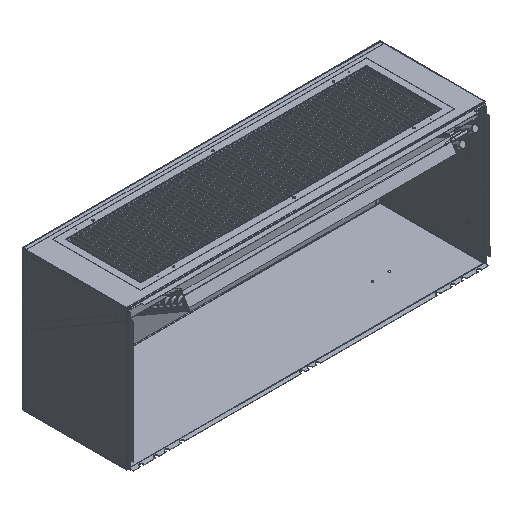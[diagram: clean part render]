
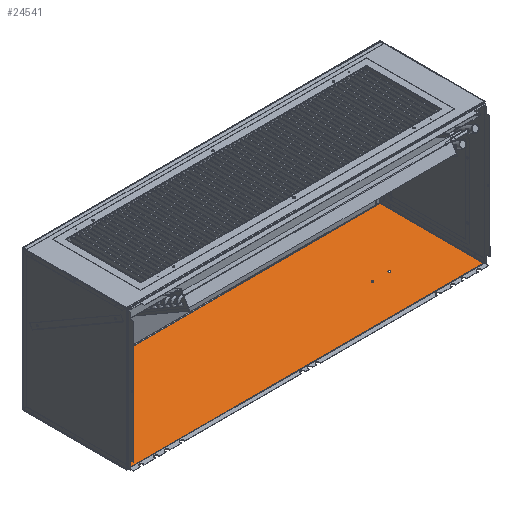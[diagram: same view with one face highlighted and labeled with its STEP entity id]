
A CAD part, isometric view. The second image highlights one B-rep face of the part: STEP entity #24541.
In plain terms, the highlighted planar face has unit normal (0, 0, 1) as drawn and (-1, 0, 0) by its records, which use the part's own axes.
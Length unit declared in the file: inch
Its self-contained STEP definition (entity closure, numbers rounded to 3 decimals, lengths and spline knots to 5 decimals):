
#596 = AXIS2_PLACEMENT_3D ( 'NONE', #9239, #9184, #9025 ) ;
#954 = AXIS2_PLACEMENT_3D ( 'NONE', #11344, #11340, #11305 ) ;
#987 = VERTEX_POINT ( 'NONE', #19968 ) ;
#3140 = VECTOR ( 'NONE', #38552, 39.37008 ) ;
#3170 = ORIENTED_EDGE ( 'NONE', *, *, #19306, .T. ) ;
#3215 = VECTOR ( 'NONE', #3658, 39.37008 ) ;
#3352 = DIRECTION ( 'NONE',  ( 0., -1., 0. ) ) ;
#3658 = DIRECTION ( 'NONE',  ( 0., 0., 1. ) ) ;
#3696 = CARTESIAN_POINT ( 'NONE',  ( 7.61768, 22.26875, 14.5519 ) ) ;
#3776 = CARTESIAN_POINT ( 'NONE',  ( 7.61768, 25.46787, 0.08552 ) ) ;
#3981 = LINE ( 'NONE', #3696, #3215 ) ;
#3996 = CARTESIAN_POINT ( 'NONE',  ( 7.61768, 62.39035, 8.66052 ) ) ;
#4382 = LINE ( 'NONE', #7684, #6003 ) ;
#4604 = CARTESIAN_POINT ( 'NONE',  ( 7.61768, 69.542, 13.88577 ) ) ;
#4786 = CARTESIAN_POINT ( 'NONE',  ( 7.61768, 69.609, 14.5519 ) ) ;
#4888 = DIRECTION ( 'NONE',  ( 0., 0., -1. ) ) ;
#5538 = VERTEX_POINT ( 'NONE', #22353 ) ;
#5603 = ORIENTED_EDGE ( 'NONE', *, *, #21492, .T. ) ;
#6003 = VECTOR ( 'NONE', #21954, 39.37008 ) ;
#6246 = VERTEX_POINT ( 'NONE', #3996 ) ;
#6406 = ORIENTED_EDGE ( 'NONE', *, *, #19603, .T. ) ;
#7447 = LINE ( 'NONE', #39863, #36169 ) ;
#7684 = CARTESIAN_POINT ( 'NONE',  ( 7.61768, -1.42424, 0.08487 ) ) ;
#8346 = DIRECTION ( 'NONE',  ( 0., 1., 0. ) ) ;
#8578 = CARTESIAN_POINT ( 'NONE',  ( 7.61768, 69.542, 13.83947 ) ) ;
#8947 = CARTESIAN_POINT ( 'NONE',  ( 7.61768, 25.46787, 13.83947 ) ) ;
#9025 = DIRECTION ( 'NONE',  ( 0., 0., -1. ) ) ;
#9184 = DIRECTION ( 'NONE',  ( 1., 0., 0. ) ) ;
#9239 = CARTESIAN_POINT ( 'NONE',  ( 7.61768, 62.39035, 8.53552 ) ) ;
#9339 = CARTESIAN_POINT ( 'NONE',  ( 7.61768, 60.14035, 8.66052 ) ) ;
#9762 = ORIENTED_EDGE ( 'NONE', *, *, #35757, .T. ) ;
#10731 = CARTESIAN_POINT ( 'NONE',  ( 7.61768, 22.20632, 13.83947 ) ) ;
#10817 = ORIENTED_EDGE ( 'NONE', *, *, #22374, .T. ) ;
#11305 = DIRECTION ( 'NONE',  ( 0., 0., -1. ) ) ;
#11340 = DIRECTION ( 'NONE',  ( 1., 0., 0. ) ) ;
#11344 = CARTESIAN_POINT ( 'NONE',  ( 7.61768, 60.14035, 8.53552 ) ) ;
#11970 = EDGE_CURVE ( 'NONE', #29200, #5538, #35855, .T. ) ;
#12269 = LINE ( 'NONE', #24610, #48470 ) ;
#13216 = VERTEX_POINT ( 'NONE', #4604 ) ;
#13893 = EDGE_LOOP ( 'NONE', ( #3170, #10817 ) ) ;
#14043 = CIRCLE ( 'NONE', #29247, 0.125 ) ;
#14126 = CARTESIAN_POINT ( 'NONE',  ( 7.61768, 69.609, 13.83947 ) ) ;
#14711 = CARTESIAN_POINT ( 'NONE',  ( 7.61768, 62.39035, 8.41052 ) ) ;
#14962 = VERTEX_POINT ( 'NONE', #14126 ) ;
#15836 = VERTEX_POINT ( 'NONE', #48080 ) ;
#16724 = ORIENTED_EDGE ( 'NONE', *, *, #22381, .T. ) ;
#17203 = ORIENTED_EDGE ( 'NONE', *, *, #22368, .T. ) ;
#17379 = CARTESIAN_POINT ( 'NONE',  ( 7.61768, 22.24062, 0.08488 ) ) ;
#18055 = ORIENTED_EDGE ( 'NONE', *, *, #21423, .T. ) ;
#18194 = LINE ( 'NONE', #38102, #3140 ) ;
#19306 = EDGE_CURVE ( 'NONE', #20777, #31111, #43927, .T. ) ;
#19392 = EDGE_CURVE ( 'NONE', #38566, #6246, #37891, .T. ) ;
#19603 = EDGE_CURVE ( 'NONE', #29657, #38710, #3981, .T. ) ;
#19915 = CARTESIAN_POINT ( 'NONE',  ( 7.61768, 22.20632, 0.08552 ) ) ;
#19926 = LINE ( 'NONE', #26157, #33475 ) ;
#19968 = CARTESIAN_POINT ( 'NONE',  ( 7.61768, 69.57012, 0.08488 ) ) ;
#20170 = FACE_BOUND ( 'NONE', #28033, .T. ) ;
#20708 = EDGE_CURVE ( 'NONE', #38710, #13216, #12269, .T. ) ;
#20777 = VERTEX_POINT ( 'NONE', #22400 ) ;
#21280 = EDGE_CURVE ( 'NONE', #35570, #14962, #40314, .T. ) ;
#21423 = EDGE_CURVE ( 'NONE', #14962, #15836, #30880, .T. ) ;
#21480 = CARTESIAN_POINT ( 'NONE',  ( 7.61768, 69.57012, 14.5519 ) ) ;
#21492 = EDGE_CURVE ( 'NONE', #15836, #39343, #25774, .T. ) ;
#21554 = AXIS2_PLACEMENT_3D ( 'NONE', #28316, #28203, #28140 ) ;
#21697 = EDGE_CURVE ( 'NONE', #987, #29200, #4382, .T. ) ;
#21954 = DIRECTION ( 'NONE',  ( 0., -1., 0. ) ) ;
#22296 = EDGE_CURVE ( 'NONE', #5538, #30743, #7447, .T. ) ;
#22353 = CARTESIAN_POINT ( 'NONE',  ( 7.61768, 22.24062, 0.08552 ) ) ;
#22368 = EDGE_CURVE ( 'NONE', #30743, #38527, #18194, .T. ) ;
#22374 = EDGE_CURVE ( 'NONE', #31111, #20777, #42962, .T. ) ;
#22381 = EDGE_CURVE ( 'NONE', #6246, #38566, #14043, .T. ) ;
#22400 = CARTESIAN_POINT ( 'NONE',  ( 7.61768, 60.14035, 8.41052 ) ) ;
#22757 = VECTOR ( 'NONE', #3352, 39.37008 ) ;
#22861 = EDGE_CURVE ( 'NONE', #38527, #29657, #19926, .T. ) ;
#24287 = DIRECTION ( 'NONE',  ( 0., 1., 0. ) ) ;
#24541 = ADVANCED_FACE ( 'NONE', ( #39993, #20170, #38821 ), #38579, .T. ) ;
#24610 = CARTESIAN_POINT ( 'NONE',  ( 7.61768, 25.46787, 13.88577 ) ) ;
#24788 = EDGE_LOOP ( 'NONE', ( #17203, #40155, #6406, #42523, #25196, #46255, #18055, #5603, #9762, #39757, #37854, #38298 ) ) ;
#25196 = ORIENTED_EDGE ( 'NONE', *, *, #25532, .T. ) ;
#25210 = ORIENTED_EDGE ( 'NONE', *, *, #19392, .T. ) ;
#25532 = EDGE_CURVE ( 'NONE', #13216, #35570, #28735, .T. ) ;
#25774 = LINE ( 'NONE', #3776, #22757 ) ;
#25872 = DIRECTION ( 'NONE',  ( 0., 1., 0. ) ) ;
#26157 = CARTESIAN_POINT ( 'NONE',  ( 7.61768, 25.46787, 13.83947 ) ) ;
#27403 = AXIS2_PLACEMENT_3D ( 'NONE', #37741, #37717, #37707 ) ;
#28033 = EDGE_LOOP ( 'NONE', ( #25210, #16724 ) ) ;
#28140 = DIRECTION ( 'NONE',  ( 0., 0., 1. ) ) ;
#28203 = DIRECTION ( 'NONE',  ( -1., 0., 0. ) ) ;
#28316 = CARTESIAN_POINT ( 'NONE',  ( 7.61768, 25.46787, 14.5519 ) ) ;
#28735 = LINE ( 'NONE', #33587, #38481 ) ;
#29200 = VERTEX_POINT ( 'NONE', #17379 ) ;
#29247 = AXIS2_PLACEMENT_3D ( 'NONE', #37564, #37479, #37467 ) ;
#29380 = LINE ( 'NONE', #21480, #34160 ) ;
#29657 = VERTEX_POINT ( 'NONE', #44413 ) ;
#29993 = VECTOR ( 'NONE', #4888, 39.37008 ) ;
#30743 = VERTEX_POINT ( 'NONE', #19915 ) ;
#30880 = LINE ( 'NONE', #4786, #29993 ) ;
#31111 = VERTEX_POINT ( 'NONE', #9339 ) ;
#33229 = DIRECTION ( 'NONE',  ( 0., 0., -1. ) ) ;
#33475 = VECTOR ( 'NONE', #25872, 39.37008 ) ;
#33587 = CARTESIAN_POINT ( 'NONE',  ( 7.61768, 69.542, 14.5519 ) ) ;
#34160 = VECTOR ( 'NONE', #36912, 39.37008 ) ;
#35510 = CARTESIAN_POINT ( 'NONE',  ( 7.61768, 69.57012, 0.08552 ) ) ;
#35570 = VERTEX_POINT ( 'NONE', #8578 ) ;
#35757 = EDGE_CURVE ( 'NONE', #39343, #987, #29380, .T. ) ;
#35855 = LINE ( 'NONE', #37146, #36174 ) ;
#36169 = VECTOR ( 'NONE', #39974, 39.37008 ) ;
#36174 = VECTOR ( 'NONE', #37093, 39.37008 ) ;
#36912 = DIRECTION ( 'NONE',  ( 0., 0., -1. ) ) ;
#37093 = DIRECTION ( 'NONE',  ( 0., 0., 1. ) ) ;
#37146 = CARTESIAN_POINT ( 'NONE',  ( 7.61768, 22.24062, 14.5519 ) ) ;
#37467 = DIRECTION ( 'NONE',  ( 0., 0., -1. ) ) ;
#37479 = DIRECTION ( 'NONE',  ( 1., 0., 0. ) ) ;
#37564 = CARTESIAN_POINT ( 'NONE',  ( 7.61768, 62.39035, 8.53552 ) ) ;
#37707 = DIRECTION ( 'NONE',  ( 0., 0., -1. ) ) ;
#37717 = DIRECTION ( 'NONE',  ( 1., 0., 0. ) ) ;
#37741 = CARTESIAN_POINT ( 'NONE',  ( 7.61768, 60.14035, 8.53552 ) ) ;
#37854 = ORIENTED_EDGE ( 'NONE', *, *, #11970, .T. ) ;
#37891 = CIRCLE ( 'NONE', #596, 0.125 ) ;
#38102 = CARTESIAN_POINT ( 'NONE',  ( 7.61768, 22.20632, 14.5519 ) ) ;
#38298 = ORIENTED_EDGE ( 'NONE', *, *, #22296, .T. ) ;
#38481 = VECTOR ( 'NONE', #33229, 39.37008 ) ;
#38527 = VERTEX_POINT ( 'NONE', #10731 ) ;
#38552 = DIRECTION ( 'NONE',  ( 0., 0., 1. ) ) ;
#38566 = VERTEX_POINT ( 'NONE', #14711 ) ;
#38579 = PLANE ( 'NONE',  #21554 ) ;
#38710 = VERTEX_POINT ( 'NONE', #45725 ) ;
#38821 = FACE_BOUND ( 'NONE', #13893, .T. ) ;
#39131 = VECTOR ( 'NONE', #8346, 39.37008 ) ;
#39343 = VERTEX_POINT ( 'NONE', #35510 ) ;
#39757 = ORIENTED_EDGE ( 'NONE', *, *, #21697, .T. ) ;
#39863 = CARTESIAN_POINT ( 'NONE',  ( 7.61768, 25.46787, 0.08552 ) ) ;
#39974 = DIRECTION ( 'NONE',  ( 0., -1., 0. ) ) ;
#39993 = FACE_OUTER_BOUND ( 'NONE', #24788, .T. ) ;
#40155 = ORIENTED_EDGE ( 'NONE', *, *, #22861, .T. ) ;
#40314 = LINE ( 'NONE', #8947, #39131 ) ;
#42523 = ORIENTED_EDGE ( 'NONE', *, *, #20708, .T. ) ;
#42962 = CIRCLE ( 'NONE', #27403, 0.125 ) ;
#43927 = CIRCLE ( 'NONE', #954, 0.125 ) ;
#44413 = CARTESIAN_POINT ( 'NONE',  ( 7.61768, 22.26875, 13.83947 ) ) ;
#45725 = CARTESIAN_POINT ( 'NONE',  ( 7.61768, 22.26875, 13.88577 ) ) ;
#46255 = ORIENTED_EDGE ( 'NONE', *, *, #21280, .T. ) ;
#48080 = CARTESIAN_POINT ( 'NONE',  ( 7.61768, 69.609, 0.08552 ) ) ;
#48470 = VECTOR ( 'NONE', #24287, 39.37008 ) ;
